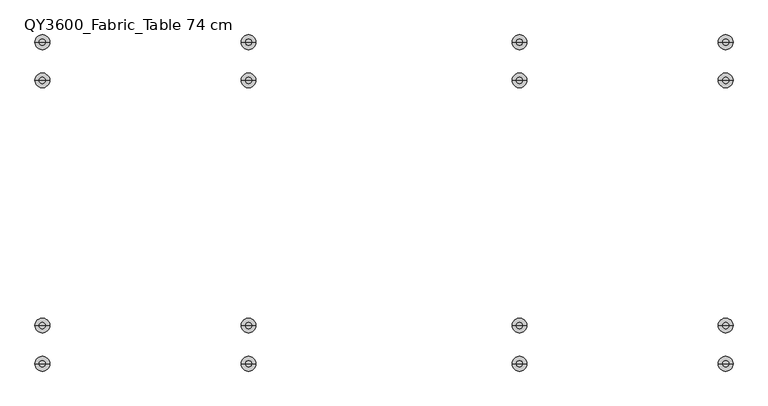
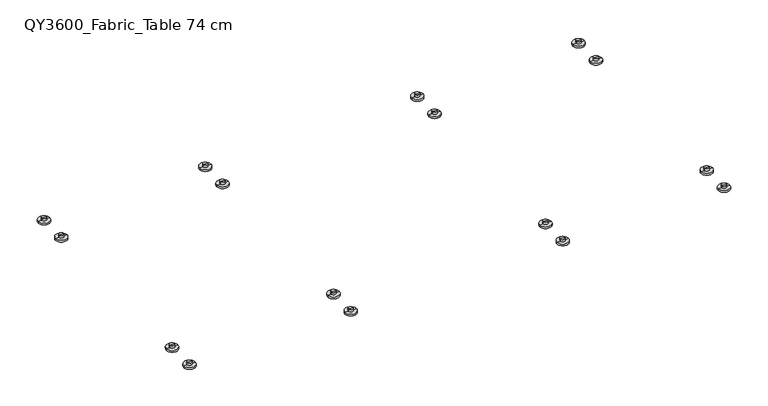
"""IFC4 building model written with IfcOpenShell, lengths in millimetres: furniture geometry, Qyos_600 : QY3600_Fabric_Table 74 cm."""

from ifc_helpers import new_model, si_unit, point, frame, frame_2d, origin, origin_with_axes, place, context, project, spatial, circle_curve, trimmed, segment, composite_curve, outline, extrude, source, transform, mapped, element, save
from ifc_brep_helpers import plane_surface, cylinder_surface, advanced_brep


def qy3600_fabric_table_74_cm_5cd29c81(model_context):
    return source(origin(), model_context, "Body", "SolidModel", [
        advanced_brep(
        [(1048.8585356, 385.0, 0.0), (1095.1414644, 385.0, 0.0), (1072.0, 385.0, 0.0), (1048.8585356, 385.0, 7.0), (1095.1414644, 385.0, 7.0), (1062.3615446, 385.0, 7.0), (1081.6384554, 385.0, 7.0), (1062.3615446, 385.0, 17.0), (1081.6384554, 385.0, 17.0), (1072.0, 385.0, 17.0)],
        [
            (0, 1, circle_curve(frame((1072.0, 385.0, 0.0), z_axis=(0.0, 0.0, -1.0), x_axis=(1.0, 0.0, 0.0)), 23.1414644)),
            (1, 2),
            (2, 0),
            (1, 0, circle_curve(frame((1072.0, 385.0, 0.0), z_axis=(0.0, 0.0, -1.0), x_axis=(1.0, 0.0, 0.0)), 23.1414644)),
            (3, 4, circle_curve(frame((1072.0, 385.0, 7.0), z_axis=(0.0, 0.0, -1.0), x_axis=(1.0, 0.0, 0.0)), 23.1414644)),
            (4, 1),
            (0, 3),
            (4, 3, circle_curve(frame((1072.0, 385.0, 7.0), z_axis=(0.0, 0.0, -1.0), x_axis=(1.0, 0.0, 0.0)), 23.1414644)),
            (5, 6, circle_curve(frame((1072.0, 385.0, 7.0), z_axis=(0.0, 0.0, -1.0), x_axis=(1.0, 0.0, 0.0)), 9.6384554)),
            (6, 4),
            (3, 5),
            (6, 5, circle_curve(frame((1072.0, 385.0, 7.0), z_axis=(0.0, 0.0, -1.0), x_axis=(1.0, 0.0, 0.0)), 9.6384554)),
            (7, 8, circle_curve(frame((1072.0, 385.0, 17.0), z_axis=(0.0, 0.0, -1.0), x_axis=(1.0, 0.0, 0.0)), 9.6384554)),
            (8, 6),
            (5, 7),
            (8, 7, circle_curve(frame((1072.0, 385.0, 17.0), z_axis=(0.0, 0.0, -1.0), x_axis=(1.0, 0.0, 0.0)), 9.6384554)),
            (9, 8),
            (7, 9),
        ],
        [
            plane_surface(frame((1072.0, 385.0, 0.0), z_axis=(0.0, 0.0, -1.0), x_axis=(1.0, 0.0, 0.0))),
            cylinder_surface(frame((1072.0, 385.0, 1997.4144888), z_axis=(0.0, 0.0, 1.0), x_axis=(1.0, 0.0, 0.0)), 23.1414644),
            plane_surface(frame((1072.0, 385.0, 7.0), z_axis=(0.0, 0.0, 1.0), x_axis=(1.0, 0.0, 0.0))),
            cylinder_surface(frame((1072.0, 385.0, 1997.4144888), z_axis=(0.0, 0.0, 1.0), x_axis=(1.0, 0.0, 0.0)), 9.6384554),
            plane_surface(frame((1072.0, 385.0, 17.0), z_axis=(0.0, 0.0, 1.0), x_axis=(1.0, 0.0, 0.0))),
        ],
        [
            (0, [[1, 2, 3]]),
            (0, [[4, -3, -2]]),
            (1, [[5, 6, -1, 7]]),
            (1, [[8, -7, -4, -6]]),
            (2, [[9, 10, -5, 11]]),
            (2, [[12, -11, -8, -10]]),
            (3, [[13, 14, -9, 15]]),
            (3, [[16, -15, -12, -14]]),
            (4, [[17, -13, 18]]),
            (4, [[-18, -16, -17]]),
        ],
    ),
        extrude(outline(composite_curve([segment(trimmed(circle_curve(frame_2d((1072.0, 385.0)), 23.1414644), [point((1048.8585356, 385.0))], [point((1095.1414644, 385.0))], False, "CARTESIAN"), True, "CONTINUOUS"), segment(trimmed(circle_curve(frame_2d((1072.0, 385.0)), 23.1414644), [point((1095.1414644, 385.0))], [point((1048.8585356, 385.0))], False, "CARTESIAN"), True, "CONTINUOUS")], self_intersect=False)), origin_with_axes(), (0.0, 0.0, 1.0), 7.0),
        advanced_brep(
        [(1048.8585356, 505.0, 0.0), (1095.1414644, 505.0, 0.0), (1072.0, 505.0, 0.0), (1048.8585356, 505.0, 7.0), (1095.1414644, 505.0, 7.0), (1062.3615446, 505.0, 7.0), (1081.6384554, 505.0, 7.0), (1062.3615446, 505.0, 17.0), (1081.6384554, 505.0, 17.0), (1072.0, 505.0, 17.0)],
        [
            (0, 1, circle_curve(frame((1072.0, 505.0, 0.0), z_axis=(0.0, 0.0, -1.0), x_axis=(1.0, 0.0, 0.0)), 23.1414644)),
            (1, 2),
            (2, 0),
            (1, 0, circle_curve(frame((1072.0, 505.0, 0.0), z_axis=(0.0, 0.0, -1.0), x_axis=(1.0, 0.0, 0.0)), 23.1414644)),
            (3, 4, circle_curve(frame((1072.0, 505.0, 7.0), z_axis=(0.0, 0.0, -1.0), x_axis=(1.0, 0.0, 0.0)), 23.1414644)),
            (4, 1),
            (0, 3),
            (4, 3, circle_curve(frame((1072.0, 505.0, 7.0), z_axis=(0.0, 0.0, -1.0), x_axis=(1.0, 0.0, 0.0)), 23.1414644)),
            (5, 6, circle_curve(frame((1072.0, 505.0, 7.0), z_axis=(0.0, 0.0, -1.0), x_axis=(1.0, 0.0, 0.0)), 9.6384554)),
            (6, 4),
            (3, 5),
            (6, 5, circle_curve(frame((1072.0, 505.0, 7.0), z_axis=(0.0, 0.0, -1.0), x_axis=(1.0, 0.0, 0.0)), 9.6384554)),
            (7, 8, circle_curve(frame((1072.0, 505.0, 17.0), z_axis=(0.0, 0.0, -1.0), x_axis=(1.0, 0.0, 0.0)), 9.6384554)),
            (8, 6),
            (5, 7),
            (8, 7, circle_curve(frame((1072.0, 505.0, 17.0), z_axis=(0.0, 0.0, -1.0), x_axis=(1.0, 0.0, 0.0)), 9.6384554)),
            (9, 8),
            (7, 9),
        ],
        [
            plane_surface(frame((1072.0, 505.0, 0.0), z_axis=(0.0, 0.0, -1.0), x_axis=(1.0, 0.0, 0.0))),
            cylinder_surface(frame((1072.0, 505.0, 1997.4144888), z_axis=(0.0, 0.0, 1.0), x_axis=(1.0, 0.0, 0.0)), 23.1414644),
            plane_surface(frame((1072.0, 505.0, 7.0), z_axis=(0.0, 0.0, 1.0), x_axis=(1.0, 0.0, 0.0))),
            cylinder_surface(frame((1072.0, 505.0, 1997.4144888), z_axis=(0.0, 0.0, 1.0), x_axis=(1.0, 0.0, 0.0)), 9.6384554),
            plane_surface(frame((1072.0, 505.0, 17.0), z_axis=(0.0, 0.0, 1.0), x_axis=(1.0, 0.0, 0.0))),
        ],
        [
            (0, [[1, 2, 3]]),
            (0, [[4, -3, -2]]),
            (1, [[5, 6, -1, 7]]),
            (1, [[8, -7, -4, -6]]),
            (2, [[9, 10, -5, 11]]),
            (2, [[12, -11, -8, -10]]),
            (3, [[13, 14, -9, 15]]),
            (3, [[16, -15, -12, -14]]),
            (4, [[17, -13, 18]]),
            (4, [[-18, -16, -17]]),
        ],
    ),
        extrude(outline(composite_curve([segment(trimmed(circle_curve(frame_2d((1072.0, 505.0)), 23.1414644), [point((1048.8585356, 505.0))], [point((1095.1414644, 505.0))], False, "CARTESIAN"), True, "CONTINUOUS"), segment(trimmed(circle_curve(frame_2d((1072.0, 505.0)), 23.1414644), [point((1095.1414644, 505.0))], [point((1048.8585356, 505.0))], False, "CARTESIAN"), True, "CONTINUOUS")], self_intersect=False)), origin_with_axes(), (0.0, 0.0, 1.0), 7.0),
        advanced_brep(
        [(1048.8585356, -505.0, 0.0), (1095.1414644, -505.0, 0.0), (1072.0, -505.0, 0.0), (1048.8585356, -505.0, 7.0), (1095.1414644, -505.0, 7.0), (1062.3615446, -505.0, 7.0), (1081.6384554, -505.0, 7.0), (1062.3615446, -505.0, 17.0), (1081.6384554, -505.0, 17.0), (1072.0, -505.0, 17.0)],
        [
            (0, 1, circle_curve(frame((1072.0, -505.0, 0.0), z_axis=(0.0, 0.0, -1.0), x_axis=(1.0, 0.0, 0.0)), 23.1414644)),
            (1, 2),
            (2, 0),
            (1, 0, circle_curve(frame((1072.0, -505.0, 0.0), z_axis=(0.0, 0.0, -1.0), x_axis=(1.0, 0.0, 0.0)), 23.1414644)),
            (3, 4, circle_curve(frame((1072.0, -505.0, 7.0), z_axis=(0.0, 0.0, -1.0), x_axis=(1.0, 0.0, 0.0)), 23.1414644)),
            (4, 1),
            (0, 3),
            (4, 3, circle_curve(frame((1072.0, -505.0, 7.0), z_axis=(0.0, 0.0, -1.0), x_axis=(1.0, 0.0, 0.0)), 23.1414644)),
            (5, 6, circle_curve(frame((1072.0, -505.0, 7.0), z_axis=(0.0, 0.0, -1.0), x_axis=(1.0, 0.0, 0.0)), 9.6384554)),
            (6, 4),
            (3, 5),
            (6, 5, circle_curve(frame((1072.0, -505.0, 7.0), z_axis=(0.0, 0.0, -1.0), x_axis=(1.0, 0.0, 0.0)), 9.6384554)),
            (7, 8, circle_curve(frame((1072.0, -505.0, 17.0), z_axis=(0.0, 0.0, -1.0), x_axis=(1.0, 0.0, 0.0)), 9.6384554)),
            (8, 6),
            (5, 7),
            (8, 7, circle_curve(frame((1072.0, -505.0, 17.0), z_axis=(0.0, 0.0, -1.0), x_axis=(1.0, 0.0, 0.0)), 9.6384554)),
            (9, 8),
            (7, 9),
        ],
        [
            plane_surface(frame((1072.0, -505.0, 0.0), z_axis=(0.0, 0.0, -1.0), x_axis=(1.0, 0.0, 0.0))),
            cylinder_surface(frame((1072.0, -505.0, 1997.4144888), z_axis=(0.0, 0.0, 1.0), x_axis=(1.0, 0.0, 0.0)), 23.1414644),
            plane_surface(frame((1072.0, -505.0, 7.0), z_axis=(0.0, 0.0, 1.0), x_axis=(1.0, 0.0, 0.0))),
            cylinder_surface(frame((1072.0, -505.0, 1997.4144888), z_axis=(0.0, 0.0, 1.0), x_axis=(1.0, 0.0, 0.0)), 9.6384554),
            plane_surface(frame((1072.0, -505.0, 17.0), z_axis=(0.0, 0.0, 1.0), x_axis=(1.0, 0.0, 0.0))),
        ],
        [
            (0, [[1, 2, 3]]),
            (0, [[4, -3, -2]]),
            (1, [[5, 6, -1, 7]]),
            (1, [[8, -7, -4, -6]]),
            (2, [[9, 10, -5, 11]]),
            (2, [[12, -11, -8, -10]]),
            (3, [[13, 14, -9, 15]]),
            (3, [[16, -15, -12, -14]]),
            (4, [[17, -13, 18]]),
            (4, [[-18, -16, -17]]),
        ],
    ),
        extrude(outline(composite_curve([segment(trimmed(circle_curve(frame_2d((1072.0, -505.0)), 23.1414644), [point((1048.8585356, -505.0))], [point((1095.1414644, -505.0))], False, "CARTESIAN"), True, "CONTINUOUS"), segment(trimmed(circle_curve(frame_2d((1072.0, -505.0)), 23.1414644), [point((1095.1414644, -505.0))], [point((1048.8585356, -505.0))], False, "CARTESIAN"), True, "CONTINUOUS")], self_intersect=False)), origin_with_axes(), (0.0, 0.0, 1.0), 7.0),
        advanced_brep(
        [(1048.8585356, -385.0, 0.0), (1095.1414644, -385.0, 0.0), (1072.0, -385.0, 0.0), (1048.8585356, -385.0, 7.0), (1095.1414644, -385.0, 7.0), (1062.3615446, -385.0, 7.0), (1081.6384554, -385.0, 7.0), (1062.3615446, -385.0, 17.0), (1081.6384554, -385.0, 17.0), (1072.0, -385.0, 17.0)],
        [
            (0, 1, circle_curve(frame((1072.0, -385.0, 0.0), z_axis=(0.0, 0.0, -1.0), x_axis=(1.0, 0.0, 0.0)), 23.1414644)),
            (1, 2),
            (2, 0),
            (1, 0, circle_curve(frame((1072.0, -385.0, 0.0), z_axis=(0.0, 0.0, -1.0), x_axis=(1.0, 0.0, 0.0)), 23.1414644)),
            (3, 4, circle_curve(frame((1072.0, -385.0, 7.0), z_axis=(0.0, 0.0, -1.0), x_axis=(1.0, 0.0, 0.0)), 23.1414644)),
            (4, 1),
            (0, 3),
            (4, 3, circle_curve(frame((1072.0, -385.0, 7.0), z_axis=(0.0, 0.0, -1.0), x_axis=(1.0, 0.0, 0.0)), 23.1414644)),
            (5, 6, circle_curve(frame((1072.0, -385.0, 7.0), z_axis=(0.0, 0.0, -1.0), x_axis=(1.0, 0.0, 0.0)), 9.6384554)),
            (6, 4),
            (3, 5),
            (6, 5, circle_curve(frame((1072.0, -385.0, 7.0), z_axis=(0.0, 0.0, -1.0), x_axis=(1.0, 0.0, 0.0)), 9.6384554)),
            (7, 8, circle_curve(frame((1072.0, -385.0, 17.0), z_axis=(0.0, 0.0, -1.0), x_axis=(1.0, 0.0, 0.0)), 9.6384554)),
            (8, 6),
            (5, 7),
            (8, 7, circle_curve(frame((1072.0, -385.0, 17.0), z_axis=(0.0, 0.0, -1.0), x_axis=(1.0, 0.0, 0.0)), 9.6384554)),
            (9, 8),
            (7, 9),
        ],
        [
            plane_surface(frame((1072.0, -385.0, 0.0), z_axis=(0.0, 0.0, -1.0), x_axis=(1.0, 0.0, 0.0))),
            cylinder_surface(frame((1072.0, -385.0, 1997.4144888), z_axis=(0.0, 0.0, 1.0), x_axis=(1.0, 0.0, 0.0)), 23.1414644),
            plane_surface(frame((1072.0, -385.0, 7.0), z_axis=(0.0, 0.0, 1.0), x_axis=(1.0, 0.0, 0.0))),
            cylinder_surface(frame((1072.0, -385.0, 1997.4144888), z_axis=(0.0, 0.0, 1.0), x_axis=(1.0, 0.0, 0.0)), 9.6384554),
            plane_surface(frame((1072.0, -385.0, 17.0), z_axis=(0.0, 0.0, 1.0), x_axis=(1.0, 0.0, 0.0))),
        ],
        [
            (0, [[1, 2, 3]]),
            (0, [[4, -3, -2]]),
            (1, [[5, 6, -1, 7]]),
            (1, [[8, -7, -4, -6]]),
            (2, [[9, 10, -5, 11]]),
            (2, [[12, -11, -8, -10]]),
            (3, [[13, 14, -9, 15]]),
            (3, [[16, -15, -12, -14]]),
            (4, [[17, -13, 18]]),
            (4, [[-18, -16, -17]]),
        ],
    ),
        extrude(outline(composite_curve([segment(trimmed(circle_curve(frame_2d((1072.0, -385.0)), 23.1414644), [point((1048.8585356, -385.0))], [point((1095.1414644, -385.0))], False, "CARTESIAN"), True, "CONTINUOUS"), segment(trimmed(circle_curve(frame_2d((1072.0, -385.0)), 23.1414644), [point((1095.1414644, -385.0))], [point((1048.8585356, -385.0))], False, "CARTESIAN"), True, "CONTINUOUS")], self_intersect=False)), origin_with_axes(), (0.0, 0.0, 1.0), 7.0),
        advanced_brep(
        [(401.8585356, -505.0, 0.0), (448.1414644, -505.0, 0.0), (425.0, -505.0, 0.0), (401.8585356, -505.0, 7.0), (448.1414644, -505.0, 7.0), (415.3615446, -505.0, 7.0), (434.6384554, -505.0, 7.0), (415.3615446, -505.0, 17.0), (434.6384554, -505.0, 17.0), (425.0, -505.0, 17.0)],
        [
            (0, 1, circle_curve(frame((425.0, -505.0, 0.0), z_axis=(0.0, 0.0, -1.0), x_axis=(1.0, 0.0, 0.0)), 23.1414644)),
            (1, 2),
            (2, 0),
            (1, 0, circle_curve(frame((425.0, -505.0, 0.0), z_axis=(0.0, 0.0, -1.0), x_axis=(1.0, 0.0, 0.0)), 23.1414644)),
            (3, 4, circle_curve(frame((425.0, -505.0, 7.0), z_axis=(0.0, 0.0, -1.0), x_axis=(1.0, 0.0, 0.0)), 23.1414644)),
            (4, 1),
            (0, 3),
            (4, 3, circle_curve(frame((425.0, -505.0, 7.0), z_axis=(0.0, 0.0, -1.0), x_axis=(1.0, 0.0, 0.0)), 23.1414644)),
            (5, 6, circle_curve(frame((425.0, -505.0, 7.0), z_axis=(0.0, 0.0, -1.0), x_axis=(1.0, 0.0, 0.0)), 9.6384554)),
            (6, 4),
            (3, 5),
            (6, 5, circle_curve(frame((425.0, -505.0, 7.0), z_axis=(0.0, 0.0, -1.0), x_axis=(1.0, 0.0, 0.0)), 9.6384554)),
            (7, 8, circle_curve(frame((425.0, -505.0, 17.0), z_axis=(0.0, 0.0, -1.0), x_axis=(1.0, 0.0, 0.0)), 9.6384554)),
            (8, 6),
            (5, 7),
            (8, 7, circle_curve(frame((425.0, -505.0, 17.0), z_axis=(0.0, 0.0, -1.0), x_axis=(1.0, 0.0, 0.0)), 9.6384554)),
            (9, 8),
            (7, 9),
        ],
        [
            plane_surface(frame((425.0, -505.0, 0.0), z_axis=(0.0, 0.0, -1.0), x_axis=(1.0, 0.0, 0.0))),
            cylinder_surface(frame((425.0, -505.0, 1997.4144888), z_axis=(0.0, 0.0, 1.0), x_axis=(1.0, 0.0, 0.0)), 23.1414644),
            plane_surface(frame((425.0, -505.0, 7.0), z_axis=(0.0, 0.0, 1.0), x_axis=(1.0, 0.0, 0.0))),
            cylinder_surface(frame((425.0, -505.0, 1997.4144888), z_axis=(0.0, 0.0, 1.0), x_axis=(1.0, 0.0, 0.0)), 9.6384554),
            plane_surface(frame((425.0, -505.0, 17.0), z_axis=(0.0, 0.0, 1.0), x_axis=(1.0, 0.0, 0.0))),
        ],
        [
            (0, [[1, 2, 3]]),
            (0, [[4, -3, -2]]),
            (1, [[5, 6, -1, 7]]),
            (1, [[8, -7, -4, -6]]),
            (2, [[9, 10, -5, 11]]),
            (2, [[12, -11, -8, -10]]),
            (3, [[13, 14, -9, 15]]),
            (3, [[16, -15, -12, -14]]),
            (4, [[17, -13, 18]]),
            (4, [[-18, -16, -17]]),
        ],
    ),
        extrude(outline(composite_curve([segment(trimmed(circle_curve(frame_2d((425.0, -505.0)), 23.1414644), [point((401.8585356, -505.0))], [point((448.1414644, -505.0))], False, "CARTESIAN"), True, "CONTINUOUS"), segment(trimmed(circle_curve(frame_2d((425.0, -505.0)), 23.1414644), [point((448.1414644, -505.0))], [point((401.8585356, -505.0))], False, "CARTESIAN"), True, "CONTINUOUS")], self_intersect=False)), origin_with_axes(), (0.0, 0.0, 1.0), 7.0),
        advanced_brep(
        [(401.8585356, -385.0, 0.0), (448.1414644, -385.0, 0.0), (425.0, -385.0, 0.0), (401.8585356, -385.0, 7.0), (448.1414644, -385.0, 7.0), (415.3615446, -385.0, 7.0), (434.6384554, -385.0, 7.0), (415.3615446, -385.0, 17.0), (434.6384554, -385.0, 17.0), (425.0, -385.0, 17.0)],
        [
            (0, 1, circle_curve(frame((425.0, -385.0, 0.0), z_axis=(0.0, 0.0, -1.0), x_axis=(1.0, 0.0, 0.0)), 23.1414644)),
            (1, 2),
            (2, 0),
            (1, 0, circle_curve(frame((425.0, -385.0, 0.0), z_axis=(0.0, 0.0, -1.0), x_axis=(1.0, 0.0, 0.0)), 23.1414644)),
            (3, 4, circle_curve(frame((425.0, -385.0, 7.0), z_axis=(0.0, 0.0, -1.0), x_axis=(1.0, 0.0, 0.0)), 23.1414644)),
            (4, 1),
            (0, 3),
            (4, 3, circle_curve(frame((425.0, -385.0, 7.0), z_axis=(0.0, 0.0, -1.0), x_axis=(1.0, 0.0, 0.0)), 23.1414644)),
            (5, 6, circle_curve(frame((425.0, -385.0, 7.0), z_axis=(0.0, 0.0, -1.0), x_axis=(1.0, 0.0, 0.0)), 9.6384554)),
            (6, 4),
            (3, 5),
            (6, 5, circle_curve(frame((425.0, -385.0, 7.0), z_axis=(0.0, 0.0, -1.0), x_axis=(1.0, 0.0, 0.0)), 9.6384554)),
            (7, 8, circle_curve(frame((425.0, -385.0, 17.0), z_axis=(0.0, 0.0, -1.0), x_axis=(1.0, 0.0, 0.0)), 9.6384554)),
            (8, 6),
            (5, 7),
            (8, 7, circle_curve(frame((425.0, -385.0, 17.0), z_axis=(0.0, 0.0, -1.0), x_axis=(1.0, 0.0, 0.0)), 9.6384554)),
            (9, 8),
            (7, 9),
        ],
        [
            plane_surface(frame((425.0, -385.0, 0.0), z_axis=(0.0, 0.0, -1.0), x_axis=(1.0, 0.0, 0.0))),
            cylinder_surface(frame((425.0, -385.0, 1997.4144888), z_axis=(0.0, 0.0, 1.0), x_axis=(1.0, 0.0, 0.0)), 23.1414644),
            plane_surface(frame((425.0, -385.0, 7.0), z_axis=(0.0, 0.0, 1.0), x_axis=(1.0, 0.0, 0.0))),
            cylinder_surface(frame((425.0, -385.0, 1997.4144888), z_axis=(0.0, 0.0, 1.0), x_axis=(1.0, 0.0, 0.0)), 9.6384554),
            plane_surface(frame((425.0, -385.0, 17.0), z_axis=(0.0, 0.0, 1.0), x_axis=(1.0, 0.0, 0.0))),
        ],
        [
            (0, [[1, 2, 3]]),
            (0, [[4, -3, -2]]),
            (1, [[5, 6, -1, 7]]),
            (1, [[8, -7, -4, -6]]),
            (2, [[9, 10, -5, 11]]),
            (2, [[12, -11, -8, -10]]),
            (3, [[13, 14, -9, 15]]),
            (3, [[16, -15, -12, -14]]),
            (4, [[17, -13, 18]]),
            (4, [[-18, -16, -17]]),
        ],
    ),
        extrude(outline(composite_curve([segment(trimmed(circle_curve(frame_2d((425.0, -385.0)), 23.1414644), [point((401.8585356, -385.0))], [point((448.1414644, -385.0))], False, "CARTESIAN"), True, "CONTINUOUS"), segment(trimmed(circle_curve(frame_2d((425.0, -385.0)), 23.1414644), [point((448.1414644, -385.0))], [point((401.8585356, -385.0))], False, "CARTESIAN"), True, "CONTINUOUS")], self_intersect=False)), origin_with_axes(), (0.0, 0.0, 1.0), 7.0),
        advanced_brep(
        [(401.8585356, 385.0, 0.0), (448.1414644, 385.0, 0.0), (425.0, 385.0, 0.0), (401.8585356, 385.0, 7.0), (448.1414644, 385.0, 7.0), (415.3615446, 385.0, 7.0), (434.6384554, 385.0, 7.0), (415.3615446, 385.0, 17.0), (434.6384554, 385.0, 17.0), (425.0, 385.0, 17.0)],
        [
            (0, 1, circle_curve(frame((425.0, 385.0, 0.0), z_axis=(0.0, 0.0, -1.0), x_axis=(1.0, 0.0, 0.0)), 23.1414644)),
            (1, 2),
            (2, 0),
            (1, 0, circle_curve(frame((425.0, 385.0, 0.0), z_axis=(0.0, 0.0, -1.0), x_axis=(1.0, 0.0, 0.0)), 23.1414644)),
            (3, 4, circle_curve(frame((425.0, 385.0, 7.0), z_axis=(0.0, 0.0, -1.0), x_axis=(1.0, 0.0, 0.0)), 23.1414644)),
            (4, 1),
            (0, 3),
            (4, 3, circle_curve(frame((425.0, 385.0, 7.0), z_axis=(0.0, 0.0, -1.0), x_axis=(1.0, 0.0, 0.0)), 23.1414644)),
            (5, 6, circle_curve(frame((425.0, 385.0, 7.0), z_axis=(0.0, 0.0, -1.0), x_axis=(1.0, 0.0, 0.0)), 9.6384554)),
            (6, 4),
            (3, 5),
            (6, 5, circle_curve(frame((425.0, 385.0, 7.0), z_axis=(0.0, 0.0, -1.0), x_axis=(1.0, 0.0, 0.0)), 9.6384554)),
            (7, 8, circle_curve(frame((425.0, 385.0, 17.0), z_axis=(0.0, 0.0, -1.0), x_axis=(1.0, 0.0, 0.0)), 9.6384554)),
            (8, 6),
            (5, 7),
            (8, 7, circle_curve(frame((425.0, 385.0, 17.0), z_axis=(0.0, 0.0, -1.0), x_axis=(1.0, 0.0, 0.0)), 9.6384554)),
            (9, 8),
            (7, 9),
        ],
        [
            plane_surface(frame((425.0, 385.0, 0.0), z_axis=(0.0, 0.0, -1.0), x_axis=(1.0, 0.0, 0.0))),
            cylinder_surface(frame((425.0, 385.0, 1997.4144888), z_axis=(0.0, 0.0, 1.0), x_axis=(1.0, 0.0, 0.0)), 23.1414644),
            plane_surface(frame((425.0, 385.0, 7.0), z_axis=(0.0, 0.0, 1.0), x_axis=(1.0, 0.0, 0.0))),
            cylinder_surface(frame((425.0, 385.0, 1997.4144888), z_axis=(0.0, 0.0, 1.0), x_axis=(1.0, 0.0, 0.0)), 9.6384554),
            plane_surface(frame((425.0, 385.0, 17.0), z_axis=(0.0, 0.0, 1.0), x_axis=(1.0, 0.0, 0.0))),
        ],
        [
            (0, [[1, 2, 3]]),
            (0, [[4, -3, -2]]),
            (1, [[5, 6, -1, 7]]),
            (1, [[8, -7, -4, -6]]),
            (2, [[9, 10, -5, 11]]),
            (2, [[12, -11, -8, -10]]),
            (3, [[13, 14, -9, 15]]),
            (3, [[16, -15, -12, -14]]),
            (4, [[17, -13, 18]]),
            (4, [[-18, -16, -17]]),
        ],
    ),
        extrude(outline(composite_curve([segment(trimmed(circle_curve(frame_2d((425.0, 385.0)), 23.1414644), [point((401.8585356, 385.0))], [point((448.1414644, 385.0))], False, "CARTESIAN"), True, "CONTINUOUS"), segment(trimmed(circle_curve(frame_2d((425.0, 385.0)), 23.1414644), [point((448.1414644, 385.0))], [point((401.8585356, 385.0))], False, "CARTESIAN"), True, "CONTINUOUS")], self_intersect=False)), origin_with_axes(), (0.0, 0.0, 1.0), 7.0),
        advanced_brep(
        [(401.8585356, 505.0, 0.0), (448.1414644, 505.0, 0.0), (425.0, 505.0, 0.0), (401.8585356, 505.0, 7.0), (448.1414644, 505.0, 7.0), (415.3615446, 505.0, 7.0), (434.6384554, 505.0, 7.0), (415.3615446, 505.0, 17.0), (434.6384554, 505.0, 17.0), (425.0, 505.0, 17.0)],
        [
            (0, 1, circle_curve(frame((425.0, 505.0, 0.0), z_axis=(0.0, 0.0, -1.0), x_axis=(1.0, 0.0, 0.0)), 23.1414644)),
            (1, 2),
            (2, 0),
            (1, 0, circle_curve(frame((425.0, 505.0, 0.0), z_axis=(0.0, 0.0, -1.0), x_axis=(1.0, 0.0, 0.0)), 23.1414644)),
            (3, 4, circle_curve(frame((425.0, 505.0, 7.0), z_axis=(0.0, 0.0, -1.0), x_axis=(1.0, 0.0, 0.0)), 23.1414644)),
            (4, 1),
            (0, 3),
            (4, 3, circle_curve(frame((425.0, 505.0, 7.0), z_axis=(0.0, 0.0, -1.0), x_axis=(1.0, 0.0, 0.0)), 23.1414644)),
            (5, 6, circle_curve(frame((425.0, 505.0, 7.0), z_axis=(0.0, 0.0, -1.0), x_axis=(1.0, 0.0, 0.0)), 9.6384554)),
            (6, 4),
            (3, 5),
            (6, 5, circle_curve(frame((425.0, 505.0, 7.0), z_axis=(0.0, 0.0, -1.0), x_axis=(1.0, 0.0, 0.0)), 9.6384554)),
            (7, 8, circle_curve(frame((425.0, 505.0, 17.0), z_axis=(0.0, 0.0, -1.0), x_axis=(1.0, 0.0, 0.0)), 9.6384554)),
            (8, 6),
            (5, 7),
            (8, 7, circle_curve(frame((425.0, 505.0, 17.0), z_axis=(0.0, 0.0, -1.0), x_axis=(1.0, 0.0, 0.0)), 9.6384554)),
            (9, 8),
            (7, 9),
        ],
        [
            plane_surface(frame((425.0, 505.0, 0.0), z_axis=(0.0, 0.0, -1.0), x_axis=(1.0, 0.0, 0.0))),
            cylinder_surface(frame((425.0, 505.0, 1997.4144888), z_axis=(0.0, 0.0, 1.0), x_axis=(1.0, 0.0, 0.0)), 23.1414644),
            plane_surface(frame((425.0, 505.0, 7.0), z_axis=(0.0, 0.0, 1.0), x_axis=(1.0, 0.0, 0.0))),
            cylinder_surface(frame((425.0, 505.0, 1997.4144888), z_axis=(0.0, 0.0, 1.0), x_axis=(1.0, 0.0, 0.0)), 9.6384554),
            plane_surface(frame((425.0, 505.0, 17.0), z_axis=(0.0, 0.0, 1.0), x_axis=(1.0, 0.0, 0.0))),
        ],
        [
            (0, [[1, 2, 3]]),
            (0, [[4, -3, -2]]),
            (1, [[5, 6, -1, 7]]),
            (1, [[8, -7, -4, -6]]),
            (2, [[9, 10, -5, 11]]),
            (2, [[12, -11, -8, -10]]),
            (3, [[13, 14, -9, 15]]),
            (3, [[16, -15, -12, -14]]),
            (4, [[17, -13, 18]]),
            (4, [[-18, -16, -17]]),
        ],
    ),
        extrude(outline(composite_curve([segment(trimmed(circle_curve(frame_2d((425.0, 505.0)), 23.1414644), [point((401.8585356, 505.0))], [point((448.1414644, 505.0))], False, "CARTESIAN"), True, "CONTINUOUS"), segment(trimmed(circle_curve(frame_2d((425.0, 505.0)), 23.1414644), [point((448.1414644, 505.0))], [point((401.8585356, 505.0))], False, "CARTESIAN"), True, "CONTINUOUS")], self_intersect=False)), origin_with_axes(), (0.0, 0.0, 1.0), 7.0),
        advanced_brep(
        [(-1095.1414644, -505.0, 0.0), (-1048.8585356, -505.0, 0.0), (-1072.0, -505.0, 0.0), (-1095.1414644, -505.0, 7.0), (-1048.8585356, -505.0, 7.0), (-1081.6384554, -505.0, 7.0), (-1062.3615446, -505.0, 7.0), (-1081.6384554, -505.0, 17.0), (-1062.3615446, -505.0, 17.0), (-1072.0, -505.0, 17.0)],
        [
            (0, 1, circle_curve(frame((-1072.0, -505.0, 0.0), z_axis=(0.0, 0.0, -1.0), x_axis=(1.0, 0.0, 0.0)), 23.1414644)),
            (1, 2),
            (2, 0),
            (1, 0, circle_curve(frame((-1072.0, -505.0, 0.0), z_axis=(0.0, 0.0, -1.0), x_axis=(1.0, 0.0, 0.0)), 23.1414644)),
            (3, 4, circle_curve(frame((-1072.0, -505.0, 7.0), z_axis=(0.0, 0.0, -1.0), x_axis=(1.0, 0.0, 0.0)), 23.1414644)),
            (4, 1),
            (0, 3),
            (4, 3, circle_curve(frame((-1072.0, -505.0, 7.0), z_axis=(0.0, 0.0, -1.0), x_axis=(1.0, 0.0, 0.0)), 23.1414644)),
            (5, 6, circle_curve(frame((-1072.0, -505.0, 7.0), z_axis=(0.0, 0.0, -1.0), x_axis=(1.0, 0.0, 0.0)), 9.6384554)),
            (6, 4),
            (3, 5),
            (6, 5, circle_curve(frame((-1072.0, -505.0, 7.0), z_axis=(0.0, 0.0, -1.0), x_axis=(1.0, 0.0, 0.0)), 9.6384554)),
            (7, 8, circle_curve(frame((-1072.0, -505.0, 17.0), z_axis=(0.0, 0.0, -1.0), x_axis=(1.0, 0.0, 0.0)), 9.6384554)),
            (8, 6),
            (5, 7),
            (8, 7, circle_curve(frame((-1072.0, -505.0, 17.0), z_axis=(0.0, 0.0, -1.0), x_axis=(1.0, 0.0, 0.0)), 9.6384554)),
            (9, 8),
            (7, 9),
        ],
        [
            plane_surface(frame((-1072.0, -505.0, 0.0), z_axis=(0.0, 0.0, -1.0), x_axis=(1.0, 0.0, 0.0))),
            cylinder_surface(frame((-1072.0, -505.0, 1997.4144888), z_axis=(0.0, 0.0, 1.0), x_axis=(1.0, 0.0, 0.0)), 23.1414644),
            plane_surface(frame((-1072.0, -505.0, 7.0), z_axis=(0.0, 0.0, 1.0), x_axis=(1.0, 0.0, 0.0))),
            cylinder_surface(frame((-1072.0, -505.0, 1997.4144888), z_axis=(0.0, 0.0, 1.0), x_axis=(1.0, 0.0, 0.0)), 9.6384554),
            plane_surface(frame((-1072.0, -505.0, 17.0), z_axis=(0.0, 0.0, 1.0), x_axis=(1.0, 0.0, 0.0))),
        ],
        [
            (0, [[1, 2, 3]]),
            (0, [[4, -3, -2]]),
            (1, [[5, 6, -1, 7]]),
            (1, [[8, -7, -4, -6]]),
            (2, [[9, 10, -5, 11]]),
            (2, [[12, -11, -8, -10]]),
            (3, [[13, 14, -9, 15]]),
            (3, [[16, -15, -12, -14]]),
            (4, [[17, -13, 18]]),
            (4, [[-18, -16, -17]]),
        ],
    ),
        extrude(outline(composite_curve([segment(trimmed(circle_curve(frame_2d((-1072.0, -505.0)), 23.1414644), [point((-1095.1414644, -505.0))], [point((-1048.8585356, -505.0))], False, "CARTESIAN"), True, "CONTINUOUS"), segment(trimmed(circle_curve(frame_2d((-1072.0, -505.0)), 23.1414644), [point((-1048.8585356, -505.0))], [point((-1095.1414644, -505.0))], False, "CARTESIAN"), True, "CONTINUOUS")], self_intersect=False)), origin_with_axes(), (0.0, 0.0, 1.0), 7.0),
        advanced_brep(
        [(-1095.1414644, -385.0, 0.0), (-1048.8585356, -385.0, 0.0), (-1072.0, -385.0, 0.0), (-1095.1414644, -385.0, 7.0), (-1048.8585356, -385.0, 7.0), (-1081.6384554, -385.0, 7.0), (-1062.3615446, -385.0, 7.0), (-1081.6384554, -385.0, 17.0), (-1062.3615446, -385.0, 17.0), (-1072.0, -385.0, 17.0)],
        [
            (0, 1, circle_curve(frame((-1072.0, -385.0, 0.0), z_axis=(0.0, 0.0, -1.0), x_axis=(1.0, 0.0, 0.0)), 23.1414644)),
            (1, 2),
            (2, 0),
            (1, 0, circle_curve(frame((-1072.0, -385.0, 0.0), z_axis=(0.0, 0.0, -1.0), x_axis=(1.0, 0.0, 0.0)), 23.1414644)),
            (3, 4, circle_curve(frame((-1072.0, -385.0, 7.0), z_axis=(0.0, 0.0, -1.0), x_axis=(1.0, 0.0, 0.0)), 23.1414644)),
            (4, 1),
            (0, 3),
            (4, 3, circle_curve(frame((-1072.0, -385.0, 7.0), z_axis=(0.0, 0.0, -1.0), x_axis=(1.0, 0.0, 0.0)), 23.1414644)),
            (5, 6, circle_curve(frame((-1072.0, -385.0, 7.0), z_axis=(0.0, 0.0, -1.0), x_axis=(1.0, 0.0, 0.0)), 9.6384554)),
            (6, 4),
            (3, 5),
            (6, 5, circle_curve(frame((-1072.0, -385.0, 7.0), z_axis=(0.0, 0.0, -1.0), x_axis=(1.0, 0.0, 0.0)), 9.6384554)),
            (7, 8, circle_curve(frame((-1072.0, -385.0, 17.0), z_axis=(0.0, 0.0, -1.0), x_axis=(1.0, 0.0, 0.0)), 9.6384554)),
            (8, 6),
            (5, 7),
            (8, 7, circle_curve(frame((-1072.0, -385.0, 17.0), z_axis=(0.0, 0.0, -1.0), x_axis=(1.0, 0.0, 0.0)), 9.6384554)),
            (9, 8),
            (7, 9),
        ],
        [
            plane_surface(frame((-1072.0, -385.0, 0.0), z_axis=(0.0, 0.0, -1.0), x_axis=(1.0, 0.0, 0.0))),
            cylinder_surface(frame((-1072.0, -385.0, 1997.4144888), z_axis=(0.0, 0.0, 1.0), x_axis=(1.0, 0.0, 0.0)), 23.1414644),
            plane_surface(frame((-1072.0, -385.0, 7.0), z_axis=(0.0, 0.0, 1.0), x_axis=(1.0, 0.0, 0.0))),
            cylinder_surface(frame((-1072.0, -385.0, 1997.4144888), z_axis=(0.0, 0.0, 1.0), x_axis=(1.0, 0.0, 0.0)), 9.6384554),
            plane_surface(frame((-1072.0, -385.0, 17.0), z_axis=(0.0, 0.0, 1.0), x_axis=(1.0, 0.0, 0.0))),
        ],
        [
            (0, [[1, 2, 3]]),
            (0, [[4, -3, -2]]),
            (1, [[5, 6, -1, 7]]),
            (1, [[8, -7, -4, -6]]),
            (2, [[9, 10, -5, 11]]),
            (2, [[12, -11, -8, -10]]),
            (3, [[13, 14, -9, 15]]),
            (3, [[16, -15, -12, -14]]),
            (4, [[17, -13, 18]]),
            (4, [[-18, -16, -17]]),
        ],
    ),
        extrude(outline(composite_curve([segment(trimmed(circle_curve(frame_2d((-1072.0, -385.0)), 23.1414644), [point((-1095.1414644, -385.0))], [point((-1048.8585356, -385.0))], False, "CARTESIAN"), True, "CONTINUOUS"), segment(trimmed(circle_curve(frame_2d((-1072.0, -385.0)), 23.1414644), [point((-1048.8585356, -385.0))], [point((-1095.1414644, -385.0))], False, "CARTESIAN"), True, "CONTINUOUS")], self_intersect=False)), origin_with_axes(), (0.0, 0.0, 1.0), 7.0),
        advanced_brep(
        [(-1095.1414644, 385.0, 0.0), (-1048.8585356, 385.0, 0.0), (-1072.0, 385.0, 0.0), (-1095.1414644, 385.0, 7.0), (-1048.8585356, 385.0, 7.0), (-1081.6384554, 385.0, 7.0), (-1062.3615446, 385.0, 7.0), (-1081.6384554, 385.0, 17.0), (-1062.3615446, 385.0, 17.0), (-1072.0, 385.0, 17.0)],
        [
            (0, 1, circle_curve(frame((-1072.0, 385.0, 0.0), z_axis=(0.0, 0.0, -1.0), x_axis=(1.0, 0.0, 0.0)), 23.1414644)),
            (1, 2),
            (2, 0),
            (1, 0, circle_curve(frame((-1072.0, 385.0, 0.0), z_axis=(0.0, 0.0, -1.0), x_axis=(1.0, 0.0, 0.0)), 23.1414644)),
            (3, 4, circle_curve(frame((-1072.0, 385.0, 7.0), z_axis=(0.0, 0.0, -1.0), x_axis=(1.0, 0.0, 0.0)), 23.1414644)),
            (4, 1),
            (0, 3),
            (4, 3, circle_curve(frame((-1072.0, 385.0, 7.0), z_axis=(0.0, 0.0, -1.0), x_axis=(1.0, 0.0, 0.0)), 23.1414644)),
            (5, 6, circle_curve(frame((-1072.0, 385.0, 7.0), z_axis=(0.0, 0.0, -1.0), x_axis=(1.0, 0.0, 0.0)), 9.6384554)),
            (6, 4),
            (3, 5),
            (6, 5, circle_curve(frame((-1072.0, 385.0, 7.0), z_axis=(0.0, 0.0, -1.0), x_axis=(1.0, 0.0, 0.0)), 9.6384554)),
            (7, 8, circle_curve(frame((-1072.0, 385.0, 17.0), z_axis=(0.0, 0.0, -1.0), x_axis=(1.0, 0.0, 0.0)), 9.6384554)),
            (8, 6),
            (5, 7),
            (8, 7, circle_curve(frame((-1072.0, 385.0, 17.0), z_axis=(0.0, 0.0, -1.0), x_axis=(1.0, 0.0, 0.0)), 9.6384554)),
            (9, 8),
            (7, 9),
        ],
        [
            plane_surface(frame((-1072.0, 385.0, 0.0), z_axis=(0.0, 0.0, -1.0), x_axis=(1.0, 0.0, 0.0))),
            cylinder_surface(frame((-1072.0, 385.0, 1997.4144888), z_axis=(0.0, 0.0, 1.0), x_axis=(1.0, 0.0, 0.0)), 23.1414644),
            plane_surface(frame((-1072.0, 385.0, 7.0), z_axis=(0.0, 0.0, 1.0), x_axis=(1.0, 0.0, 0.0))),
            cylinder_surface(frame((-1072.0, 385.0, 1997.4144888), z_axis=(0.0, 0.0, 1.0), x_axis=(1.0, 0.0, 0.0)), 9.6384554),
            plane_surface(frame((-1072.0, 385.0, 17.0), z_axis=(0.0, 0.0, 1.0), x_axis=(1.0, 0.0, 0.0))),
        ],
        [
            (0, [[1, 2, 3]]),
            (0, [[4, -3, -2]]),
            (1, [[5, 6, -1, 7]]),
            (1, [[8, -7, -4, -6]]),
            (2, [[9, 10, -5, 11]]),
            (2, [[12, -11, -8, -10]]),
            (3, [[13, 14, -9, 15]]),
            (3, [[16, -15, -12, -14]]),
            (4, [[17, -13, 18]]),
            (4, [[-18, -16, -17]]),
        ],
    ),
        extrude(outline(composite_curve([segment(trimmed(circle_curve(frame_2d((-1072.0, 385.0)), 23.1414644), [point((-1095.1414644, 385.0))], [point((-1048.8585356, 385.0))], False, "CARTESIAN"), True, "CONTINUOUS"), segment(trimmed(circle_curve(frame_2d((-1072.0, 385.0)), 23.1414644), [point((-1048.8585356, 385.0))], [point((-1095.1414644, 385.0))], False, "CARTESIAN"), True, "CONTINUOUS")], self_intersect=False)), origin_with_axes(), (0.0, 0.0, 1.0), 7.0),
        advanced_brep(
        [(-1095.1414644, 505.0, 0.0), (-1048.8585356, 505.0, 0.0), (-1072.0, 505.0, 0.0), (-1095.1414644, 505.0, 7.0), (-1048.8585356, 505.0, 7.0), (-1081.6384554, 505.0, 7.0), (-1062.3615446, 505.0, 7.0), (-1081.6384554, 505.0, 17.0), (-1062.3615446, 505.0, 17.0), (-1072.0, 505.0, 17.0)],
        [
            (0, 1, circle_curve(frame((-1072.0, 505.0, 0.0), z_axis=(0.0, 0.0, -1.0), x_axis=(1.0, 0.0, 0.0)), 23.1414644)),
            (1, 2),
            (2, 0),
            (1, 0, circle_curve(frame((-1072.0, 505.0, 0.0), z_axis=(0.0, 0.0, -1.0), x_axis=(1.0, 0.0, 0.0)), 23.1414644)),
            (3, 4, circle_curve(frame((-1072.0, 505.0, 7.0), z_axis=(0.0, 0.0, -1.0), x_axis=(1.0, 0.0, 0.0)), 23.1414644)),
            (4, 1),
            (0, 3),
            (4, 3, circle_curve(frame((-1072.0, 505.0, 7.0), z_axis=(0.0, 0.0, -1.0), x_axis=(1.0, 0.0, 0.0)), 23.1414644)),
            (5, 6, circle_curve(frame((-1072.0, 505.0, 7.0), z_axis=(0.0, 0.0, -1.0), x_axis=(1.0, 0.0, 0.0)), 9.6384554)),
            (6, 4),
            (3, 5),
            (6, 5, circle_curve(frame((-1072.0, 505.0, 7.0), z_axis=(0.0, 0.0, -1.0), x_axis=(1.0, 0.0, 0.0)), 9.6384554)),
            (7, 8, circle_curve(frame((-1072.0, 505.0, 17.0), z_axis=(0.0, 0.0, -1.0), x_axis=(1.0, 0.0, 0.0)), 9.6384554)),
            (8, 6),
            (5, 7),
            (8, 7, circle_curve(frame((-1072.0, 505.0, 17.0), z_axis=(0.0, 0.0, -1.0), x_axis=(1.0, 0.0, 0.0)), 9.6384554)),
            (9, 8),
            (7, 9),
        ],
        [
            plane_surface(frame((-1072.0, 505.0, 0.0), z_axis=(0.0, 0.0, -1.0), x_axis=(1.0, 0.0, 0.0))),
            cylinder_surface(frame((-1072.0, 505.0, 1997.4144888), z_axis=(0.0, 0.0, 1.0), x_axis=(1.0, 0.0, 0.0)), 23.1414644),
            plane_surface(frame((-1072.0, 505.0, 7.0), z_axis=(0.0, 0.0, 1.0), x_axis=(1.0, 0.0, 0.0))),
            cylinder_surface(frame((-1072.0, 505.0, 1997.4144888), z_axis=(0.0, 0.0, 1.0), x_axis=(1.0, 0.0, 0.0)), 9.6384554),
            plane_surface(frame((-1072.0, 505.0, 17.0), z_axis=(0.0, 0.0, 1.0), x_axis=(1.0, 0.0, 0.0))),
        ],
        [
            (0, [[1, 2, 3]]),
            (0, [[4, -3, -2]]),
            (1, [[5, 6, -1, 7]]),
            (1, [[8, -7, -4, -6]]),
            (2, [[9, 10, -5, 11]]),
            (2, [[12, -11, -8, -10]]),
            (3, [[13, 14, -9, 15]]),
            (3, [[16, -15, -12, -14]]),
            (4, [[17, -13, 18]]),
            (4, [[-18, -16, -17]]),
        ],
    ),
        extrude(outline(composite_curve([segment(trimmed(circle_curve(frame_2d((-1072.0, 505.0)), 23.1414644), [point((-1095.1414644, 505.0))], [point((-1048.8585356, 505.0))], False, "CARTESIAN"), True, "CONTINUOUS"), segment(trimmed(circle_curve(frame_2d((-1072.0, 505.0)), 23.1414644), [point((-1048.8585356, 505.0))], [point((-1095.1414644, 505.0))], False, "CARTESIAN"), True, "CONTINUOUS")], self_intersect=False)), origin_with_axes(), (0.0, 0.0, 1.0), 7.0),
        advanced_brep(
        [(-448.1414644, 505.0, 0.0), (-401.8585356, 505.0, 0.0), (-425.0, 505.0, 0.0), (-448.1414644, 505.0, 7.0), (-401.8585356, 505.0, 7.0), (-434.6384554, 505.0, 7.0), (-415.3615446, 505.0, 7.0), (-434.6384554, 505.0, 17.0), (-415.3615446, 505.0, 17.0), (-425.0, 505.0, 17.0)],
        [
            (0, 1, circle_curve(frame((-425.0, 505.0, 0.0), z_axis=(0.0, 0.0, -1.0), x_axis=(1.0, 0.0, 0.0)), 23.1414644)),
            (1, 2),
            (2, 0),
            (1, 0, circle_curve(frame((-425.0, 505.0, 0.0), z_axis=(0.0, 0.0, -1.0), x_axis=(1.0, 0.0, 0.0)), 23.1414644)),
            (3, 4, circle_curve(frame((-425.0, 505.0, 7.0), z_axis=(0.0, 0.0, -1.0), x_axis=(1.0, 0.0, 0.0)), 23.1414644)),
            (4, 1),
            (0, 3),
            (4, 3, circle_curve(frame((-425.0, 505.0, 7.0), z_axis=(0.0, 0.0, -1.0), x_axis=(1.0, 0.0, 0.0)), 23.1414644)),
            (5, 6, circle_curve(frame((-425.0, 505.0, 7.0), z_axis=(0.0, 0.0, -1.0), x_axis=(1.0, 0.0, 0.0)), 9.6384554)),
            (6, 4),
            (3, 5),
            (6, 5, circle_curve(frame((-425.0, 505.0, 7.0), z_axis=(0.0, 0.0, -1.0), x_axis=(1.0, 0.0, 0.0)), 9.6384554)),
            (7, 8, circle_curve(frame((-425.0, 505.0, 17.0), z_axis=(0.0, 0.0, -1.0), x_axis=(1.0, 0.0, 0.0)), 9.6384554)),
            (8, 6),
            (5, 7),
            (8, 7, circle_curve(frame((-425.0, 505.0, 17.0), z_axis=(0.0, 0.0, -1.0), x_axis=(1.0, 0.0, 0.0)), 9.6384554)),
            (9, 8),
            (7, 9),
        ],
        [
            plane_surface(frame((-425.0, 505.0, 0.0), z_axis=(0.0, 0.0, -1.0), x_axis=(1.0, 0.0, 0.0))),
            cylinder_surface(frame((-425.0, 505.0, 1997.4144888), z_axis=(0.0, 0.0, 1.0), x_axis=(1.0, 0.0, 0.0)), 23.1414644),
            plane_surface(frame((-425.0, 505.0, 7.0), z_axis=(0.0, 0.0, 1.0), x_axis=(1.0, 0.0, 0.0))),
            cylinder_surface(frame((-425.0, 505.0, 1997.4144888), z_axis=(0.0, 0.0, 1.0), x_axis=(1.0, 0.0, 0.0)), 9.6384554),
            plane_surface(frame((-425.0, 505.0, 17.0), z_axis=(0.0, 0.0, 1.0), x_axis=(1.0, 0.0, 0.0))),
        ],
        [
            (0, [[1, 2, 3]]),
            (0, [[4, -3, -2]]),
            (1, [[5, 6, -1, 7]]),
            (1, [[8, -7, -4, -6]]),
            (2, [[9, 10, -5, 11]]),
            (2, [[12, -11, -8, -10]]),
            (3, [[13, 14, -9, 15]]),
            (3, [[16, -15, -12, -14]]),
            (4, [[17, -13, 18]]),
            (4, [[-18, -16, -17]]),
        ],
    ),
        extrude(outline(composite_curve([segment(trimmed(circle_curve(frame_2d((-425.0, 505.0)), 23.1414644), [point((-448.1414644, 505.0))], [point((-401.8585356, 505.0))], False, "CARTESIAN"), True, "CONTINUOUS"), segment(trimmed(circle_curve(frame_2d((-425.0, 505.0)), 23.1414644), [point((-401.8585356, 505.0))], [point((-448.1414644, 505.0))], False, "CARTESIAN"), True, "CONTINUOUS")], self_intersect=False)), origin_with_axes(), (0.0, 0.0, 1.0), 7.0),
        advanced_brep(
        [(-448.1414644, 385.0, 0.0), (-401.8585356, 385.0, 0.0), (-425.0, 385.0, 0.0), (-448.1414644, 385.0, 7.0), (-401.8585356, 385.0, 7.0), (-434.6384554, 385.0, 7.0), (-415.3615446, 385.0, 7.0), (-434.6384554, 385.0, 17.0), (-415.3615446, 385.0, 17.0), (-425.0, 385.0, 17.0)],
        [
            (0, 1, circle_curve(frame((-425.0, 385.0, 0.0), z_axis=(0.0, 0.0, -1.0), x_axis=(1.0, 0.0, 0.0)), 23.1414644)),
            (1, 2),
            (2, 0),
            (1, 0, circle_curve(frame((-425.0, 385.0, 0.0), z_axis=(0.0, 0.0, -1.0), x_axis=(1.0, 0.0, 0.0)), 23.1414644)),
            (3, 4, circle_curve(frame((-425.0, 385.0, 7.0), z_axis=(0.0, 0.0, -1.0), x_axis=(1.0, 0.0, 0.0)), 23.1414644)),
            (4, 1),
            (0, 3),
            (4, 3, circle_curve(frame((-425.0, 385.0, 7.0), z_axis=(0.0, 0.0, -1.0), x_axis=(1.0, 0.0, 0.0)), 23.1414644)),
            (5, 6, circle_curve(frame((-425.0, 385.0, 7.0), z_axis=(0.0, 0.0, -1.0), x_axis=(1.0, 0.0, 0.0)), 9.6384554)),
            (6, 4),
            (3, 5),
            (6, 5, circle_curve(frame((-425.0, 385.0, 7.0), z_axis=(0.0, 0.0, -1.0), x_axis=(1.0, 0.0, 0.0)), 9.6384554)),
            (7, 8, circle_curve(frame((-425.0, 385.0, 17.0), z_axis=(0.0, 0.0, -1.0), x_axis=(1.0, 0.0, 0.0)), 9.6384554)),
            (8, 6),
            (5, 7),
            (8, 7, circle_curve(frame((-425.0, 385.0, 17.0), z_axis=(0.0, 0.0, -1.0), x_axis=(1.0, 0.0, 0.0)), 9.6384554)),
            (9, 8),
            (7, 9),
        ],
        [
            plane_surface(frame((-425.0, 385.0, 0.0), z_axis=(0.0, 0.0, -1.0), x_axis=(1.0, 0.0, 0.0))),
            cylinder_surface(frame((-425.0, 385.0, 1997.4144888), z_axis=(0.0, 0.0, 1.0), x_axis=(1.0, 0.0, 0.0)), 23.1414644),
            plane_surface(frame((-425.0, 385.0, 7.0), z_axis=(0.0, 0.0, 1.0), x_axis=(1.0, 0.0, 0.0))),
            cylinder_surface(frame((-425.0, 385.0, 1997.4144888), z_axis=(0.0, 0.0, 1.0), x_axis=(1.0, 0.0, 0.0)), 9.6384554),
            plane_surface(frame((-425.0, 385.0, 17.0), z_axis=(0.0, 0.0, 1.0), x_axis=(1.0, 0.0, 0.0))),
        ],
        [
            (0, [[1, 2, 3]]),
            (0, [[4, -3, -2]]),
            (1, [[5, 6, -1, 7]]),
            (1, [[8, -7, -4, -6]]),
            (2, [[9, 10, -5, 11]]),
            (2, [[12, -11, -8, -10]]),
            (3, [[13, 14, -9, 15]]),
            (3, [[16, -15, -12, -14]]),
            (4, [[17, -13, 18]]),
            (4, [[-18, -16, -17]]),
        ],
    ),
        extrude(outline(composite_curve([segment(trimmed(circle_curve(frame_2d((-425.0, 385.0)), 23.1414644), [point((-448.1414644, 385.0))], [point((-401.8585356, 385.0))], False, "CARTESIAN"), True, "CONTINUOUS"), segment(trimmed(circle_curve(frame_2d((-425.0, 385.0)), 23.1414644), [point((-401.8585356, 385.0))], [point((-448.1414644, 385.0))], False, "CARTESIAN"), True, "CONTINUOUS")], self_intersect=False)), origin_with_axes(), (0.0, 0.0, 1.0), 7.0),
        advanced_brep(
        [(-448.1414644, -385.0, 0.0), (-401.8585356, -385.0, 0.0), (-425.0, -385.0, 0.0), (-448.1414644, -385.0, 7.0), (-401.8585356, -385.0, 7.0), (-434.6384554, -385.0, 7.0), (-415.3615446, -385.0, 7.0), (-434.6384554, -385.0, 17.0), (-415.3615446, -385.0, 17.0), (-425.0, -385.0, 17.0)],
        [
            (0, 1, circle_curve(frame((-425.0, -385.0, 0.0), z_axis=(0.0, 0.0, -1.0), x_axis=(1.0, 0.0, 0.0)), 23.1414644)),
            (1, 2),
            (2, 0),
            (1, 0, circle_curve(frame((-425.0, -385.0, 0.0), z_axis=(0.0, 0.0, -1.0), x_axis=(1.0, 0.0, 0.0)), 23.1414644)),
            (3, 4, circle_curve(frame((-425.0, -385.0, 7.0), z_axis=(0.0, 0.0, -1.0), x_axis=(1.0, 0.0, 0.0)), 23.1414644)),
            (4, 1),
            (0, 3),
            (4, 3, circle_curve(frame((-425.0, -385.0, 7.0), z_axis=(0.0, 0.0, -1.0), x_axis=(1.0, 0.0, 0.0)), 23.1414644)),
            (5, 6, circle_curve(frame((-425.0, -385.0, 7.0), z_axis=(0.0, 0.0, -1.0), x_axis=(1.0, 0.0, 0.0)), 9.6384554)),
            (6, 4),
            (3, 5),
            (6, 5, circle_curve(frame((-425.0, -385.0, 7.0), z_axis=(0.0, 0.0, -1.0), x_axis=(1.0, 0.0, 0.0)), 9.6384554)),
            (7, 8, circle_curve(frame((-425.0, -385.0, 17.0), z_axis=(0.0, 0.0, -1.0), x_axis=(1.0, 0.0, 0.0)), 9.6384554)),
            (8, 6),
            (5, 7),
            (8, 7, circle_curve(frame((-425.0, -385.0, 17.0), z_axis=(0.0, 0.0, -1.0), x_axis=(1.0, 0.0, 0.0)), 9.6384554)),
            (9, 8),
            (7, 9),
        ],
        [
            plane_surface(frame((-425.0, -385.0, 0.0), z_axis=(0.0, 0.0, -1.0), x_axis=(1.0, 0.0, 0.0))),
            cylinder_surface(frame((-425.0, -385.0, 1997.4144888), z_axis=(0.0, 0.0, 1.0), x_axis=(1.0, 0.0, 0.0)), 23.1414644),
            plane_surface(frame((-425.0, -385.0, 7.0), z_axis=(0.0, 0.0, 1.0), x_axis=(1.0, 0.0, 0.0))),
            cylinder_surface(frame((-425.0, -385.0, 1997.4144888), z_axis=(0.0, 0.0, 1.0), x_axis=(1.0, 0.0, 0.0)), 9.6384554),
            plane_surface(frame((-425.0, -385.0, 17.0), z_axis=(0.0, 0.0, 1.0), x_axis=(1.0, 0.0, 0.0))),
        ],
        [
            (0, [[1, 2, 3]]),
            (0, [[4, -3, -2]]),
            (1, [[5, 6, -1, 7]]),
            (1, [[8, -7, -4, -6]]),
            (2, [[9, 10, -5, 11]]),
            (2, [[12, -11, -8, -10]]),
            (3, [[13, 14, -9, 15]]),
            (3, [[16, -15, -12, -14]]),
            (4, [[17, -13, 18]]),
            (4, [[-18, -16, -17]]),
        ],
    ),
        extrude(outline(composite_curve([segment(trimmed(circle_curve(frame_2d((-425.0, -385.0)), 23.1414644), [point((-448.1414644, -385.0))], [point((-401.8585356, -385.0))], False, "CARTESIAN"), True, "CONTINUOUS"), segment(trimmed(circle_curve(frame_2d((-425.0, -385.0)), 23.1414644), [point((-401.8585356, -385.0))], [point((-448.1414644, -385.0))], False, "CARTESIAN"), True, "CONTINUOUS")], self_intersect=False)), origin_with_axes(), (0.0, 0.0, 1.0), 7.0),
        advanced_brep(
        [(-448.1414644, -505.0, 0.0), (-401.8585356, -505.0, 0.0), (-425.0, -505.0, 0.0), (-448.1414644, -505.0, 7.0), (-401.8585356, -505.0, 7.0), (-434.6384554, -505.0, 7.0), (-415.3615446, -505.0, 7.0), (-434.6384554, -505.0, 17.0), (-415.3615446, -505.0, 17.0), (-425.0, -505.0, 17.0)],
        [
            (0, 1, circle_curve(frame((-425.0, -505.0, 0.0), z_axis=(0.0, 0.0, -1.0), x_axis=(1.0, 0.0, 0.0)), 23.1414644)),
            (1, 2),
            (2, 0),
            (1, 0, circle_curve(frame((-425.0, -505.0, 0.0), z_axis=(0.0, 0.0, -1.0), x_axis=(1.0, 0.0, 0.0)), 23.1414644)),
            (3, 4, circle_curve(frame((-425.0, -505.0, 7.0), z_axis=(0.0, 0.0, -1.0), x_axis=(1.0, 0.0, 0.0)), 23.1414644)),
            (4, 1),
            (0, 3),
            (4, 3, circle_curve(frame((-425.0, -505.0, 7.0), z_axis=(0.0, 0.0, -1.0), x_axis=(1.0, 0.0, 0.0)), 23.1414644)),
            (5, 6, circle_curve(frame((-425.0, -505.0, 7.0), z_axis=(0.0, 0.0, -1.0), x_axis=(1.0, 0.0, 0.0)), 9.6384554)),
            (6, 4),
            (3, 5),
            (6, 5, circle_curve(frame((-425.0, -505.0, 7.0), z_axis=(0.0, 0.0, -1.0), x_axis=(1.0, 0.0, 0.0)), 9.6384554)),
            (7, 8, circle_curve(frame((-425.0, -505.0, 17.0), z_axis=(0.0, 0.0, -1.0), x_axis=(1.0, 0.0, 0.0)), 9.6384554)),
            (8, 6),
            (5, 7),
            (8, 7, circle_curve(frame((-425.0, -505.0, 17.0), z_axis=(0.0, 0.0, -1.0), x_axis=(1.0, 0.0, 0.0)), 9.6384554)),
            (9, 8),
            (7, 9),
        ],
        [
            plane_surface(frame((-425.0, -505.0, 0.0), z_axis=(0.0, 0.0, -1.0), x_axis=(1.0, 0.0, 0.0))),
            cylinder_surface(frame((-425.0, -505.0, 1997.4144888), z_axis=(0.0, 0.0, 1.0), x_axis=(1.0, 0.0, 0.0)), 23.1414644),
            plane_surface(frame((-425.0, -505.0, 7.0), z_axis=(0.0, 0.0, 1.0), x_axis=(1.0, 0.0, 0.0))),
            cylinder_surface(frame((-425.0, -505.0, 1997.4144888), z_axis=(0.0, 0.0, 1.0), x_axis=(1.0, 0.0, 0.0)), 9.6384554),
            plane_surface(frame((-425.0, -505.0, 17.0), z_axis=(0.0, 0.0, 1.0), x_axis=(1.0, 0.0, 0.0))),
        ],
        [
            (0, [[1, 2, 3]]),
            (0, [[4, -3, -2]]),
            (1, [[5, 6, -1, 7]]),
            (1, [[8, -7, -4, -6]]),
            (2, [[9, 10, -5, 11]]),
            (2, [[12, -11, -8, -10]]),
            (3, [[13, 14, -9, 15]]),
            (3, [[16, -15, -12, -14]]),
            (4, [[17, -13, 18]]),
            (4, [[-18, -16, -17]]),
        ],
    ),
        extrude(outline(composite_curve([segment(trimmed(circle_curve(frame_2d((-425.0, -505.0)), 23.1414644), [point((-448.1414644, -505.0))], [point((-401.8585356, -505.0))], False, "CARTESIAN"), True, "CONTINUOUS"), segment(trimmed(circle_curve(frame_2d((-425.0, -505.0)), 23.1414644), [point((-401.8585356, -505.0))], [point((-448.1414644, -505.0))], False, "CARTESIAN"), True, "CONTINUOUS")], self_intersect=False)), origin_with_axes(), (0.0, 0.0, 1.0), 7.0),
    ])


if __name__ == "__main__":
    model = new_model("IFC4")
    model_context = context("Model", 3, world=origin())
    ifc_project = project(units=[si_unit("LENGTHUNIT", "METRE", prefix="MILLI")], contexts=[model_context])
    site = spatial("IfcSite", under=ifc_project)
    building = spatial("IfcBuilding", under=site)
    placement = place(None, origin())
    qy3600_fabric_table_74_cm_shape = qy3600_fabric_table_74_cm_5cd29c81(model_context)
    element("IfcFurniture", 1, ObjectType="Qyos_600 : QY3600_Fabric_Table 74 cm", at=placement, inside=building, context=model_context, shape_type="MappedRepresentation", body=[
        mapped(qy3600_fabric_table_74_cm_shape, transform((0.0, 0.0, 0.0), x_axis=(1.0, 0.0, 0.0), y_axis=(0.0, 1.0, 0.0), z_axis=(0.0, 0.0, 1.0))),
    ])
    save(model, "model.ifc")
